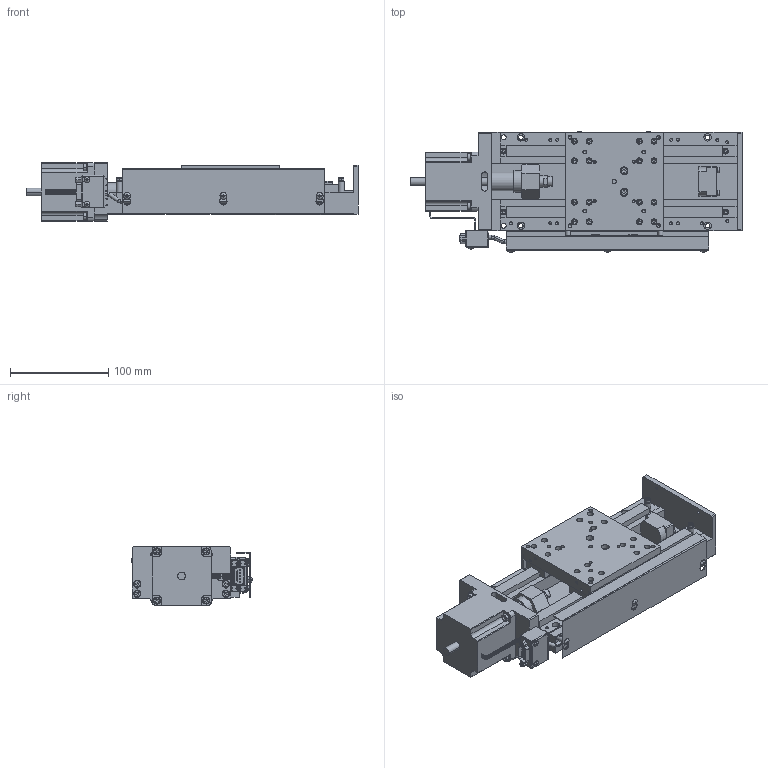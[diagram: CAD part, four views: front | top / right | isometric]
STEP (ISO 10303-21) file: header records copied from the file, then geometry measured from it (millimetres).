
FILE_DESCRIPTION( (''), '2;1');
FILE_NAME ('MVXA10A-L201.stp','2022-03-28T17:20:11',(''),(''),'spGate 17.5.5','','');
FILE_SCHEMA (('AUTOMOTIVE_DESIGN'));
Length unit declared in the file: millimetre
Products named in the file (3): Assembly; MVXA10A-L201-prt0; MVXA10A-L201-prt1
Assembly tree (2 placements, depth 2):
  Assembly
    MVXA10A-L201-prt0
    MVXA10A-L201-prt1
Bounding box: 337.8 x 122.49 x 60 mm (x, y, z)
Volume: 1001965.2 mm3; surface area: 227375.2 mm2
Topology: 2 solids, 4 shells, 2988 faces, 7145 edges, 4247 vertices
Faces by surface type: plane 1608, cylinder 789, bspline 535, sphere 56
Entity records: 146677 total; most frequent: CARTESIAN_POINT 24202, ORIENTED_EDGE 13894, DIRECTION 12962, COLOUR_RGB 9937, PRESENTATION_STYLE_ASSIGNMENT 9937, STYLED_ITEM 9937, EDGE_CURVE 6947, DRAUGHTING_PRE_DEFINED_CURVE_FONT 6947
